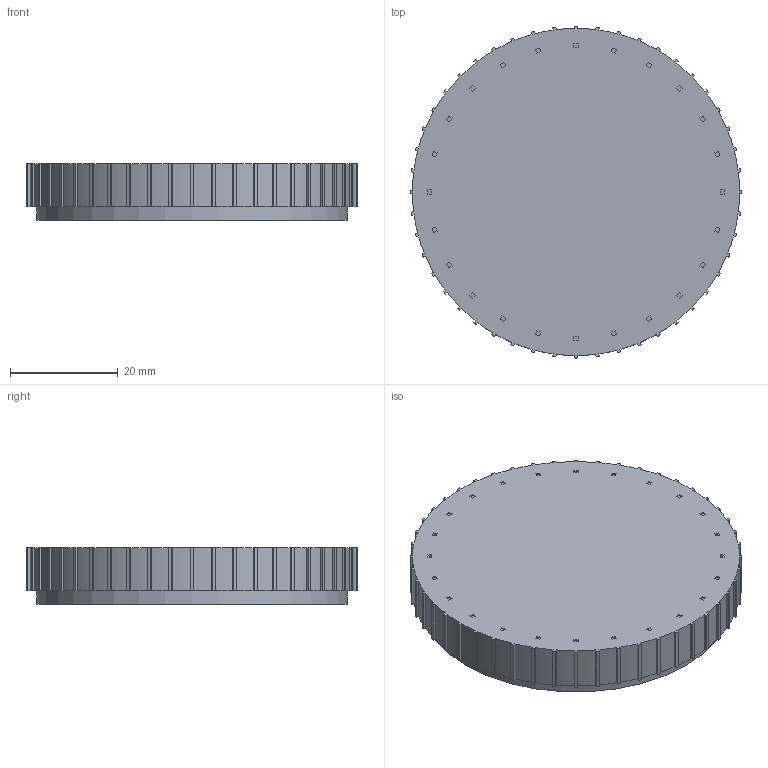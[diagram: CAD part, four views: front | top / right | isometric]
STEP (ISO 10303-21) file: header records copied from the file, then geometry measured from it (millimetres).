
FILE_DESCRIPTION(('Open CASCADE Model'),'2;1');
FILE_NAME('Open CASCADE Shape Model','2026-11-03T18:39:03',('Author'),( 'Open CASCADE'),'Open CASCADE STEP processor 7.9','Open CASCADE 7.9' ,'Unknown');
FILE_SCHEMA(('AUTOMOTIVE_DESIGN { 1 0 10303 214 1 1 1 1 }'));
Length unit declared in the file: millimetre
Products named in the file (1): Open CASCADE STEP translator 7.9 2
Bounding box: 61.6 x 61.6 x 10.5 mm (x, y, z)
Volume: 10631.7 mm3; surface area: 9702.2 mm2
Topology: 1 solids, 1 shells, 324 faces, 879 edges, 586 vertices
Faces by surface type: plane 199, cylinder 125
Full cylindrical faces by diameter (mm): 5.2 x1, 7 x1, 50 x1, 51.95 x1, 57.6 x1
Entity records: 21529 total; most frequent: CARTESIAN_POINT 4346, DIRECTION 3104, LINE 1777, VECTOR 1777, ORIENTED_EDGE 1758, PCURVE 1758, DEFINITIONAL_REPRESENTATION 1758, EDGE_CURVE 879
